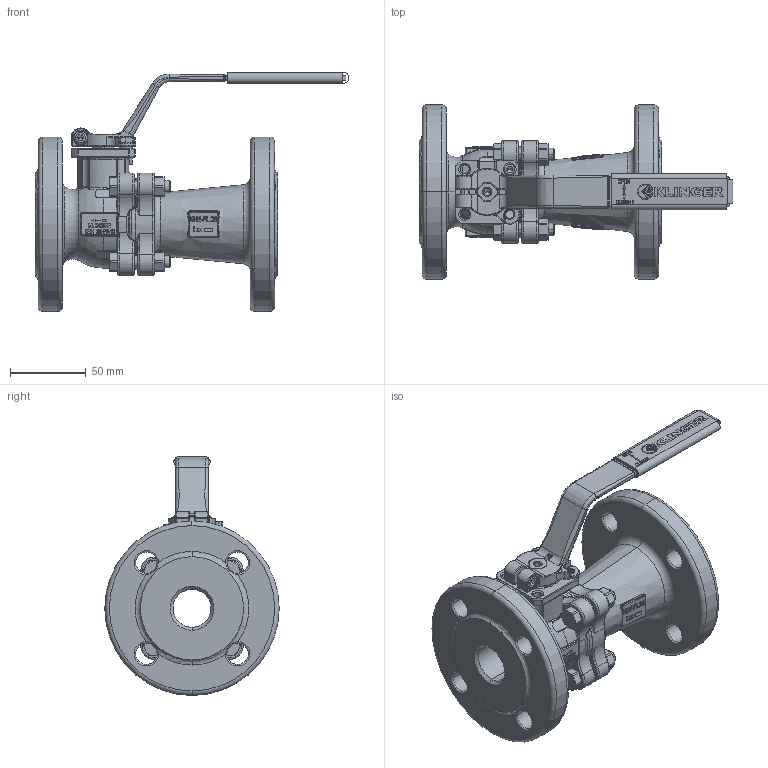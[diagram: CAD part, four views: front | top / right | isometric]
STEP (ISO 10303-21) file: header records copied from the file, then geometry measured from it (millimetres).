
FILE_DESCRIPTION((''),'2;1');
FILE_NAME('KHEFK025VFL025P040XKK','2016-04-26T',('santag'),('RAND'),'PRO/ENGINEER BY PARAMETRIC TECHNOLOGY CORPORATION, 2013410','PRO/ENGINEER BY PARAMETRIC TECHNOLOGY CORPORATION, 2013410','');
FILE_SCHEMA(('CONFIG_CONTROL_DESIGN'));
Products named in the file (1): KHEFK025VFL025P040XKK
Bounding box: 206.95 x 115 x 157.55 mm (x, y, z)
Volume: 577655.7 mm3; surface area: 140032 mm2
Topology: 1 solids, 1 shells, 3147 faces, 8104 edges, 5063 vertices
Faces by surface type: plane 1741, cylinder 486, bspline 340, torus 330, cone 208, sphere 42
Entity records: 130559 total; most frequent: CARTESIAN_POINT 55836, ORIENTED_EDGE 16180, DIRECTION 14724, EDGE_CURVE 8090, VERTEX_POINT 5063, VECTOR 5056, LINE 5056, AXIS2_PLACEMENT_3D 4834
